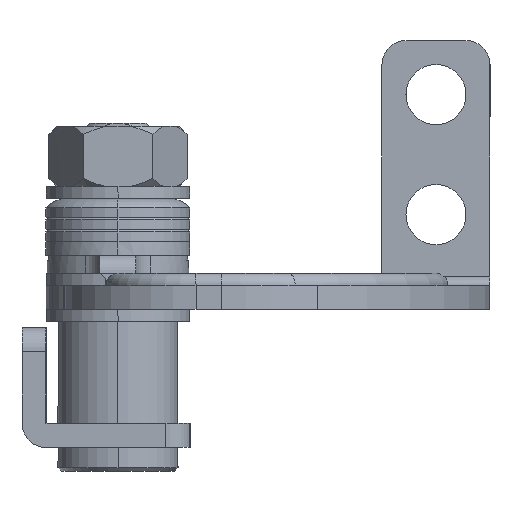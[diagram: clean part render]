
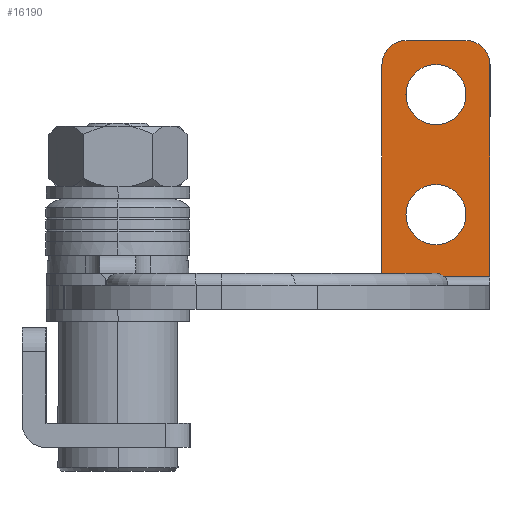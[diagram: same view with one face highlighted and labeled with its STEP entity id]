
A CAD part, left-side view. The second image highlights one B-rep face of the part: STEP entity #16190.
In plain terms, the highlighted planar face has unit normal (-1, 0, 0) as drawn and (1, 0, 0) by its records, which use the part's own axes.
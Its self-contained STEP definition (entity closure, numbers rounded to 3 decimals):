
#146 = DIRECTION ( 'NONE',  ( 0., -1., 0. ) ) ;
#197 = DIRECTION ( 'NONE',  ( -1., 0., 0. ) ) ;
#245 = CARTESIAN_POINT ( 'NONE',  ( -6.24, -29., -20.4 ) ) ;
#351 = VERTEX_POINT ( 'NONE', #3053 ) ;
#890 = EDGE_CURVE ( 'NONE', #3513, #5047, #11596, .T. ) ;
#1029 = CARTESIAN_POINT ( 'NONE',  ( -6.24, -26.5, -20.4 ) ) ;
#1105 = PLANE ( 'NONE',  #15602 ) ;
#1197 = CARTESIAN_POINT ( 'NONE',  ( -6.24, -22., -20.4 ) ) ;
#1345 = DIRECTION ( 'NONE',  ( 0., 0., 1. ) ) ;
#1729 = VECTOR ( 'NONE', #9170, 1000. ) ;
#1898 = ORIENTED_EDGE ( 'NONE', *, *, #16453, .F. ) ;
#2297 = DIRECTION ( 'NONE',  ( 0., 0., 1. ) ) ;
#2488 = DIRECTION ( 'NONE',  ( 0., 1., 0. ) ) ;
#2676 = CARTESIAN_POINT ( 'NONE',  ( -6.24, -22., -2.74 ) ) ;
#2691 = CARTESIAN_POINT ( 'NONE',  ( -6.24, -26.5, -15.4 ) ) ;
#2729 = CARTESIAN_POINT ( 'NONE',  ( -6.24, -22., -20.4 ) ) ;
#2751 = VERTEX_POINT ( 'NONE', #2691 ) ;
#2929 = DIRECTION ( 'NONE',  ( 0., 0., 1. ) ) ;
#3053 = CARTESIAN_POINT ( 'NONE',  ( -6.24, -29., -22.4 ) ) ;
#3513 = VERTEX_POINT ( 'NONE', #13966 ) ;
#4142 = DIRECTION ( 'NONE',  ( 1., 0., 0. ) ) ;
#4167 = LINE ( 'NONE', #19071, #14681 ) ;
#4404 = LINE ( 'NONE', #14976, #1729 ) ;
#4651 = VECTOR ( 'NONE', #13174, 1000. ) ;
#4656 = CARTESIAN_POINT ( 'NONE',  ( -6.24, -26.5, -7.9 ) ) ;
#4714 = ORIENTED_EDGE ( 'NONE', *, *, #7259, .F. ) ;
#4826 = ORIENTED_EDGE ( 'NONE', *, *, #13926, .T. ) ;
#5047 = VERTEX_POINT ( 'NONE', #15180 ) ;
#5071 = EDGE_CURVE ( 'NONE', #10318, #18625, #10795, .T. ) ;
#5318 = EDGE_CURVE ( 'NONE', #5047, #3513, #12689, .T. ) ;
#5322 = CARTESIAN_POINT ( 'NONE',  ( -6.24, -26.5, -17.9 ) ) ;
#5520 = CARTESIAN_POINT ( 'NONE',  ( -6.24, -31., -2.74 ) ) ;
#5681 = ORIENTED_EDGE ( 'NONE', *, *, #890, .T. ) ;
#5768 = DIRECTION ( 'NONE',  ( -1., 0., 0. ) ) ;
#5926 = ORIENTED_EDGE ( 'NONE', *, *, #14662, .T. ) ;
#6402 = ORIENTED_EDGE ( 'NONE', *, *, #9892, .F. ) ;
#6527 = ORIENTED_EDGE ( 'NONE', *, *, #5071, .F. ) ;
#6567 = CARTESIAN_POINT ( 'NONE',  ( -6.24, -26.5, -17.9 ) ) ;
#7094 = DIRECTION ( 'NONE',  ( 0., 0., 1. ) ) ;
#7112 = ORIENTED_EDGE ( 'NONE', *, *, #12842, .F. ) ;
#7259 = EDGE_CURVE ( 'NONE', #14527, #10318, #14631, .T. ) ;
#7392 = AXIS2_PLACEMENT_3D ( 'NONE', #4656, #13950, #1345 ) ;
#7417 = DIRECTION ( 'NONE',  ( 0., -1., 0. ) ) ;
#7561 = DIRECTION ( 'NONE',  ( 0., 0., -1. ) ) ;
#7922 = CARTESIAN_POINT ( 'NONE',  ( -6.24, -31., -20.4 ) ) ;
#8500 = CARTESIAN_POINT ( 'NONE',  ( -6.24, -24., -22.4 ) ) ;
#8660 = CARTESIAN_POINT ( 'NONE',  ( -6.24, -31., -2.74 ) ) ;
#8939 = DIRECTION ( 'NONE',  ( -1., 0., 0. ) ) ;
#9170 = DIRECTION ( 'NONE',  ( 0., 0., 1. ) ) ;
#9704 = EDGE_LOOP ( 'NONE', ( #4826, #5926 ) ) ;
#9760 = EDGE_CURVE ( 'NONE', #351, #19244, #17379, .T. ) ;
#9892 = EDGE_CURVE ( 'NONE', #10671, #14527, #10020, .T. ) ;
#10017 = FACE_BOUND ( 'NONE', #17857, .T. ) ;
#10020 = LINE ( 'NONE', #5520, #11397 ) ;
#10318 = VERTEX_POINT ( 'NONE', #2729 ) ;
#10384 = CARTESIAN_POINT ( 'NONE',  ( -6.24, -24., -20.4 ) ) ;
#10671 = VERTEX_POINT ( 'NONE', #8660 ) ;
#10795 = CIRCLE ( 'NONE', #18939, 2. ) ;
#11047 = DIRECTION ( 'NONE',  ( 0., 0., 1. ) ) ;
#11397 = VECTOR ( 'NONE', #2488, 1000. ) ;
#11596 = CIRCLE ( 'NONE', #17884, 2.5 ) ;
#11691 = DIRECTION ( 'NONE',  ( -1., 0., 0. ) ) ;
#12424 = CIRCLE ( 'NONE', #19324, 2.5 ) ;
#12631 = DIRECTION ( 'NONE',  ( -1., 0., 0. ) ) ;
#12689 = CIRCLE ( 'NONE', #7392, 2.5 ) ;
#12842 = EDGE_CURVE ( 'NONE', #19244, #10671, #4404, .T. ) ;
#13174 = DIRECTION ( 'NONE',  ( 0., 0., -1. ) ) ;
#13926 = EDGE_CURVE ( 'NONE', #2751, #16917, #18049, .T. ) ;
#13950 = DIRECTION ( 'NONE',  ( -1., 0., 0. ) ) ;
#13966 = CARTESIAN_POINT ( 'NONE',  ( -6.24, -26.5, -5.4 ) ) ;
#14527 = VERTEX_POINT ( 'NONE', #2676 ) ;
#14631 = LINE ( 'NONE', #1197, #4651 ) ;
#14662 = EDGE_CURVE ( 'NONE', #16917, #2751, #12424, .T. ) ;
#14681 = VECTOR ( 'NONE', #7417, 1000. ) ;
#14976 = CARTESIAN_POINT ( 'NONE',  ( -6.24, -31., -2.74 ) ) ;
#15180 = CARTESIAN_POINT ( 'NONE',  ( -6.24, -26.5, -10.4 ) ) ;
#15404 = ORIENTED_EDGE ( 'NONE', *, *, #9760, .F. ) ;
#15602 = AXIS2_PLACEMENT_3D ( 'NONE', #16207, #4142, #7094 ) ;
#15908 = FACE_OUTER_BOUND ( 'NONE', #18254, .T. ) ;
#16017 = FACE_BOUND ( 'NONE', #9704, .T. ) ;
#16190 = ADVANCED_FACE ( 'NONE', ( #15908, #10017, #16017 ), #1105, .T. ) ;
#16207 = CARTESIAN_POINT ( 'NONE',  ( -6.24, -31., -22.4 ) ) ;
#16435 = AXIS2_PLACEMENT_3D ( 'NONE', #245, #8939, #146 ) ;
#16453 = EDGE_CURVE ( 'NONE', #18625, #351, #4167, .T. ) ;
#16917 = VERTEX_POINT ( 'NONE', #1029 ) ;
#17046 = CARTESIAN_POINT ( 'NONE',  ( -6.24, -26.5, -7.9 ) ) ;
#17379 = CIRCLE ( 'NONE', #16435, 2. ) ;
#17449 = AXIS2_PLACEMENT_3D ( 'NONE', #6567, #5768, #2929 ) ;
#17857 = EDGE_LOOP ( 'NONE', ( #5681, #17863 ) ) ;
#17863 = ORIENTED_EDGE ( 'NONE', *, *, #5318, .T. ) ;
#17884 = AXIS2_PLACEMENT_3D ( 'NONE', #17046, #12631, #11047 ) ;
#18049 = CIRCLE ( 'NONE', #17449, 2.5 ) ;
#18254 = EDGE_LOOP ( 'NONE', ( #7112, #15404, #1898, #6527, #4714, #6402 ) ) ;
#18625 = VERTEX_POINT ( 'NONE', #8500 ) ;
#18939 = AXIS2_PLACEMENT_3D ( 'NONE', #10384, #197, #7561 ) ;
#19071 = CARTESIAN_POINT ( 'NONE',  ( -6.24, -29., -22.4 ) ) ;
#19244 = VERTEX_POINT ( 'NONE', #7922 ) ;
#19324 = AXIS2_PLACEMENT_3D ( 'NONE', #5322, #11691, #2297 ) ;
